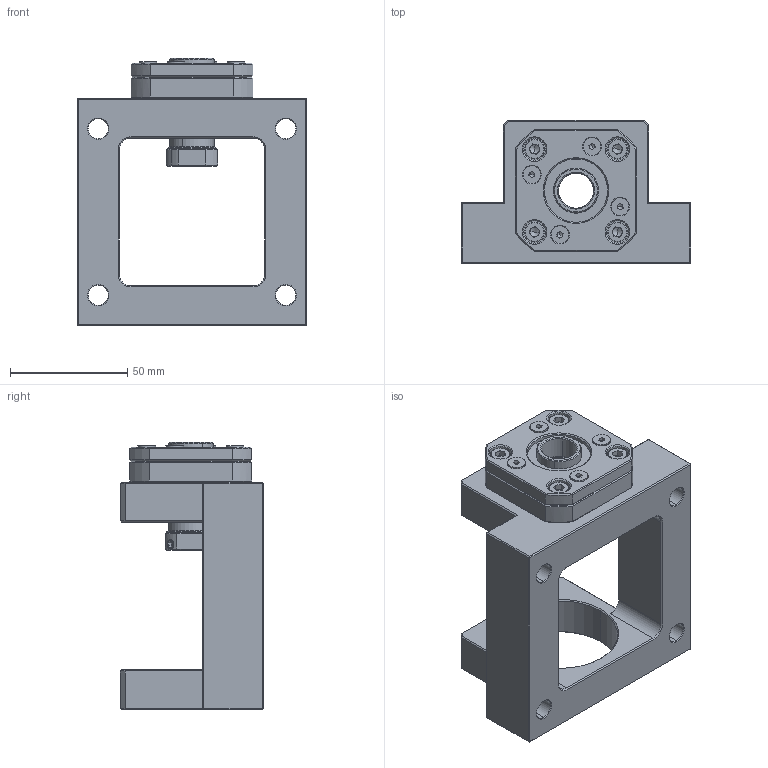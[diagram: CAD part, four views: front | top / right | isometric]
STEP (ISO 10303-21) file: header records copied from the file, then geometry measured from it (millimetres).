
FILE_DESCRIPTION (( 'STEP AP214' ), '1' );
FILE_NAME ('SJU15.STEP', '2009-06-01T02:10:59', ( '歜煽繹' ), ( '' ), 'SwSTEP 2.0', 'SolidWorks 2007', '' );
FILE_SCHEMA (( 'AUTOMOTIVE_DESIGN' ));
Length unit declared in the file: millimetre
Products named in the file (13): Socket Head Cap Screw_ISO_ISO 4762 M5 x 25 --- 25N; Socket Set Screw Flat Point_AM_B18.3.6M - M4 x 0.7 x 4 Hex Socket Flat Pt. SS --N_B18.3.6M - M4 x 0.7 x 4 Hex Socket Flat Pt. SS --N; SJU15; 7002ADF_ル遽; HOUSING_SFK15_晦獄 撲薑; SFK15_ル遽; SJU15_ル遽; HOLDINGLID_SFK15_晦獄 撲薑; SEAL_白19.3x白27x4_晦獄 撲薑; COLLAR_SFK15_晦獄 撲薑; SET PIECE_白3.1x1_晦獄 撲薑; RN15_晦獄 撲薑; Socket Countersunk Head Screw_ISO_ISO 10642 - M4 x 8 --- 8N_ISO 10642 - M4 x 8 --- 8N
Assembly tree (20 placements, depth 3):
  SJU15
    SFK15_ル遽
      HOUSING_SFK15_晦獄 撲薑
      SET PIECE_白3.1x1_晦獄 撲薑
      Socket Countersunk Head Screw_ISO_ISO 10642 - M4 x 8 --- 8N_ISO 10642 - M4 x 8 --- 8N  x4
      COLLAR_SFK15_晦獄 撲薑  x2
      7002ADF_ル遽
      Socket Set Screw Flat Point_AM_B18.3.6M - M4 x 0.7 x 4 Hex Socket Flat Pt. SS --N_B18.3.6M - M4 x 0.7 x 4 Hex Socket Flat Pt. SS --N
      RN15_晦獄 撲薑
      HOLDINGLID_SFK15_晦獄 撲薑
      SEAL_白19.3x白27x4_晦獄 撲薑  x2
    Socket Head Cap Screw_ISO_ISO 4762 M5 x 25 --- 25N  x4
    SJU15_ル遽
Bounding box: 98 x 61 x 114 mm (x, y, z)
Volume: 200789.7 mm3; surface area: 75645.3 mm2
Topology: 18 solids, 47 shells, 792 faces, 1819 edges, 1008 vertices
Faces by surface type: plane 257, cone 242, cylinder 183, bspline 84, torus 26
Entity records: 19474 total; most frequent: CARTESIAN_POINT 5216, DIRECTION 2961, ORIENTED_EDGE 2622, EDGE_CURVE 1313, AXIS2_PLACEMENT_3D 1175, VERTEX_POINT 792, EDGE_LOOP 693, CIRCLE 621
